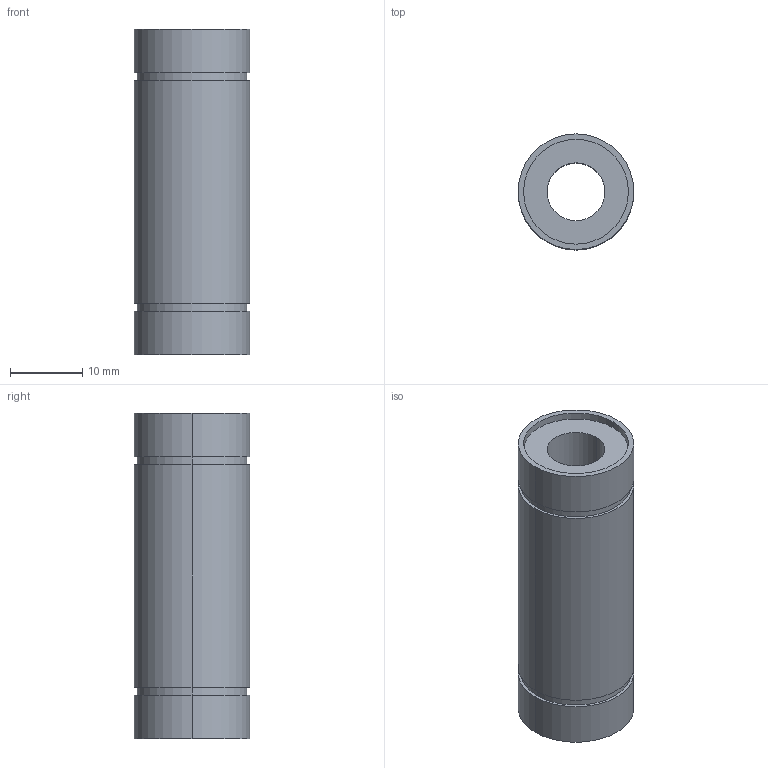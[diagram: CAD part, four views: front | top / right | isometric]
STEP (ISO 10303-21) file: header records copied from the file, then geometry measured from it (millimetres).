
FILE_DESCRIPTION((''),'2;1');
FILE_NAME('C:\Documents and Settings\ｿﾀﾀ蠑ｷ1\ｹﾙﾅﾁ ﾈｭｸ饅\ｺﾎﾇｰﾆﾄﾀﾏ\ﾁｦﾇｰ\LME__LUU\LME8LUU.stp','2005-06-14T16:53:57',('ｿﾀﾀ蠑ｷ1'),(''),'Autodesk Inventor 9','Autodesk Inventor 9','');
FILE_SCHEMA(('AUTOMOTIVE_DESIGN { 1 0 10303 214 1 1 1 1 }'));
Length unit declared in the file: millimetre
Products named in the file (1): LME__
Bounding box: 16 x 16 x 45 mm (x, y, z)
Volume: 6513 mm3; surface area: 3808.2 mm2
Topology: 1 solids, 1 shells, 24 faces, 48 edges, 32 vertices
Faces by surface type: cylinder 16, plane 8
Entity records: 671 total; most frequent: DIRECTION 130, CARTESIAN_POINT 105, ORIENTED_EDGE 96, AXIS2_PLACEMENT_3D 57, EDGE_CURVE 48, VERTEX_POINT 32, CIRCLE 32, EDGE_LOOP 32
